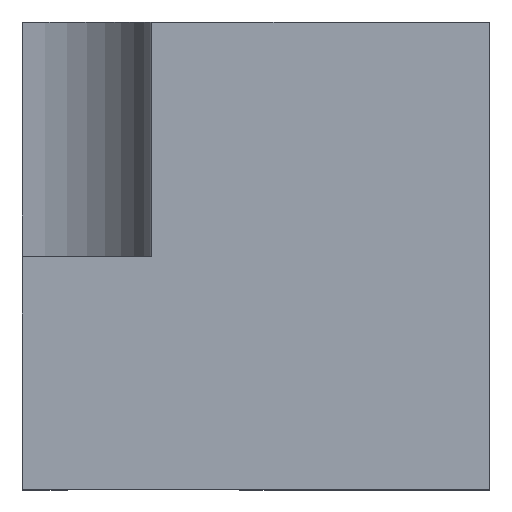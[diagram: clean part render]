
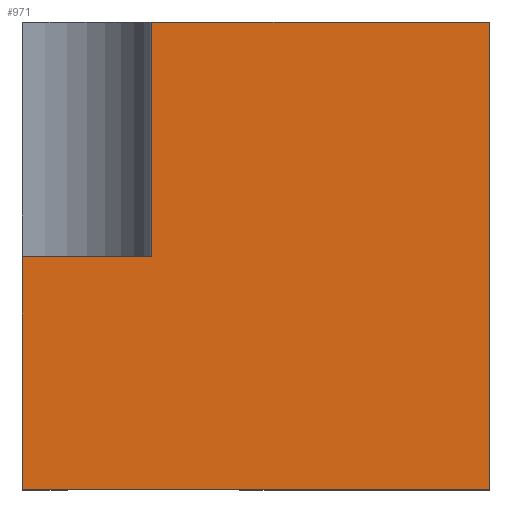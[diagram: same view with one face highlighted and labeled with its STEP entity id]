
A CAD part, top view. The second image highlights one B-rep face of the part: STEP entity #971.
In plain terms, the highlighted planar face has unit normal (0, 0, 1).
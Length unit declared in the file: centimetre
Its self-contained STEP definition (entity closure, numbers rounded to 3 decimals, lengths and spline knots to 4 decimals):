
#28 = VECTOR ( 'NONE', #557, 100. ) ;
#33 = VERTEX_POINT ( 'NONE', #603 ) ;
#53 = ORIENTED_EDGE ( 'NONE', *, *, #267, .F. ) ;
#96 = CARTESIAN_POINT ( 'NONE',  ( 1000., 0., 1000. ) ) ;
#105 = DIRECTION ( 'NONE',  ( 0., 0., 1. ) ) ;
#157 = CARTESIAN_POINT ( 'NONE',  ( 0., 497.1144, 1000. ) ) ;
#174 = VERTEX_POINT ( 'NONE', #190 ) ;
#190 = CARTESIAN_POINT ( 'NONE',  ( 276.6772, 497.1144, 1000. ) ) ;
#196 = CARTESIAN_POINT ( 'NONE',  ( 0., 0., 1000. ) ) ;
#200 = FACE_OUTER_BOUND ( 'NONE', #879, .T. ) ;
#208 = VERTEX_POINT ( 'NONE', #801 ) ;
#219 = LINE ( 'NONE', #388, #776 ) ;
#224 = CARTESIAN_POINT ( 'NONE',  ( 0., 1000., 1000. ) ) ;
#227 = VECTOR ( 'NONE', #612, 100. ) ;
#236 = DIRECTION ( 'NONE',  ( -1., 0., 0. ) ) ;
#248 = CARTESIAN_POINT ( 'NONE',  ( 1000., 1000., 1000. ) ) ;
#267 = EDGE_CURVE ( 'NONE', #174, #636, #1048, .T. ) ;
#282 = ORIENTED_EDGE ( 'NONE', *, *, #604, .T. ) ;
#293 = CARTESIAN_POINT ( 'NONE',  ( 0., 497.1144, 1000. ) ) ;
#335 = EDGE_CURVE ( 'NONE', #208, #636, #645, .T. ) ;
#369 = VERTEX_POINT ( 'NONE', #96 ) ;
#388 = CARTESIAN_POINT ( 'NONE',  ( 0., 0., 1000. ) ) ;
#408 = EDGE_CURVE ( 'NONE', #174, #898, #808, .T. ) ;
#463 = LINE ( 'NONE', #224, #541 ) ;
#481 = ORIENTED_EDGE ( 'NONE', *, *, #335, .T. ) ;
#509 = AXIS2_PLACEMENT_3D ( 'NONE', #196, #105, #1030 ) ;
#514 = VECTOR ( 'NONE', #236, 100. ) ;
#529 = DIRECTION ( 'NONE',  ( 0., -1., 0. ) ) ;
#541 = VECTOR ( 'NONE', #529, 100. ) ;
#557 = DIRECTION ( 'NONE',  ( -1., 0., 0. ) ) ;
#576 = DIRECTION ( 'NONE',  ( 0., 1., 0. ) ) ;
#603 = CARTESIAN_POINT ( 'NONE',  ( 0., 0., 1000. ) ) ;
#604 = EDGE_CURVE ( 'NONE', #898, #33, #463, .T. ) ;
#612 = DIRECTION ( 'NONE',  ( 0., 1., 0. ) ) ;
#636 = VERTEX_POINT ( 'NONE', #996 ) ;
#645 = LINE ( 'NONE', #1002, #514 ) ;
#669 = EDGE_CURVE ( 'NONE', #33, #369, #219, .T. ) ;
#691 = VECTOR ( 'NONE', #576, 100. ) ;
#696 = DIRECTION ( 'NONE',  ( 1., 0., 0. ) ) ;
#766 = PLANE ( 'NONE',  #509 ) ;
#776 = VECTOR ( 'NONE', #696, 100. ) ;
#801 = CARTESIAN_POINT ( 'NONE',  ( 1000., 1000., 1000. ) ) ;
#804 = ORIENTED_EDGE ( 'NONE', *, *, #669, .T. ) ;
#808 = LINE ( 'NONE', #293, #28 ) ;
#879 = EDGE_LOOP ( 'NONE', ( #53, #976, #282, #804, #950, #481 ) ) ;
#898 = VERTEX_POINT ( 'NONE', #157 ) ;
#950 = ORIENTED_EDGE ( 'NONE', *, *, #957, .T. ) ;
#956 = CARTESIAN_POINT ( 'NONE',  ( 276.6772, 497.1144, 1000. ) ) ;
#957 = EDGE_CURVE ( 'NONE', #369, #208, #1017, .T. ) ;
#971 = ADVANCED_FACE ( 'NONE', ( #200 ), #766, .T. ) ;
#976 = ORIENTED_EDGE ( 'NONE', *, *, #408, .T. ) ;
#996 = CARTESIAN_POINT ( 'NONE',  ( 276.6772, 1000., 1000. ) ) ;
#1002 = CARTESIAN_POINT ( 'NONE',  ( 0., 1000., 1000. ) ) ;
#1017 = LINE ( 'NONE', #248, #691 ) ;
#1030 = DIRECTION ( 'NONE',  ( 1., 0., 0. ) ) ;
#1048 = LINE ( 'NONE', #956, #227 ) ;
